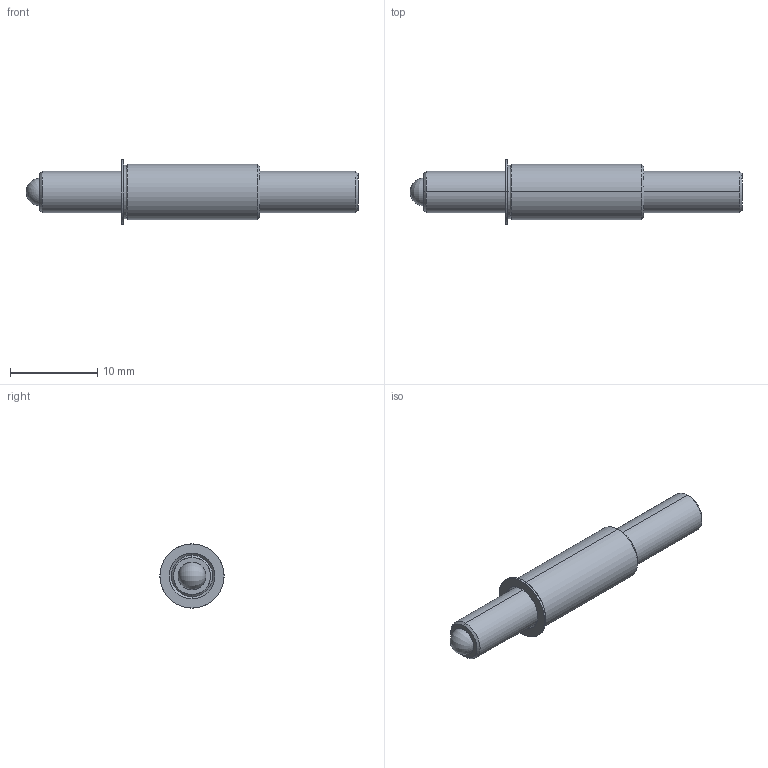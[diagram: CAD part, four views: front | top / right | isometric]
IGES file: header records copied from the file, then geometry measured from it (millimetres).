
Start section: SolidWorks IGES file using analytic representation for surfaces
Global section: file name: C:\Users\workpc\Desktop\KMA Solidworks\TSB187-100-1500_625.IGS; native system: SolidWorks 2013; preprocessor: SolidWorks 2013; author: workpc; date: 130313.092916; units: inch
Bounding box: 38.1 x 7.37 x 7.37 mm (x, y, z)
Surface area: 983.2 mm2 (no closed solid volume)
Topology: 0 solids, 0 shells, 33 faces, 406 edges, 402 vertices
Faces by surface type: revolution 22, bspline 11
